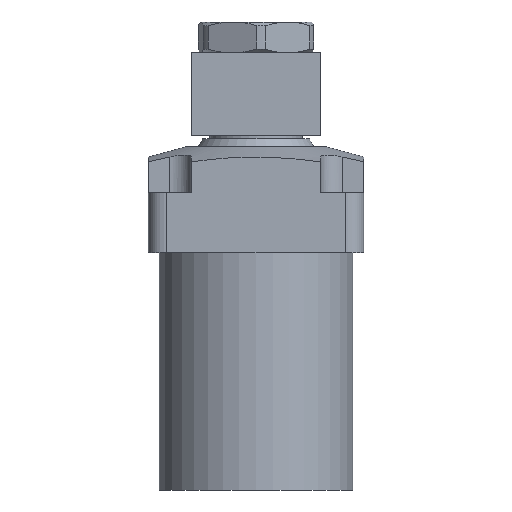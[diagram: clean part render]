
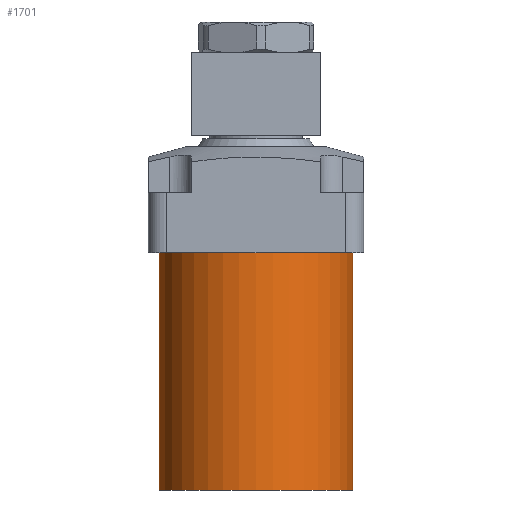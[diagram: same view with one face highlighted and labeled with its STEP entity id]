
A CAD part, left-side view. The second image highlights one B-rep face of the part: STEP entity #1701.
In plain terms, the highlighted cylindrical face has radius 31.5 mm (diameter 63 mm), a full revolution.
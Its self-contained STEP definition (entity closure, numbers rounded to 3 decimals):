
#1210=FACE_BOUND('',#2024,.T.);
#1211=FACE_BOUND('',#2025,.T.);
#1316=CYLINDRICAL_SURFACE('',#3887,31.5);
#1701=ADVANCED_FACE('',(#1210,#1211),#1316,.T.);
#2024=EDGE_LOOP('',(#2506));
#2025=EDGE_LOOP('',(#2507));
#2506=ORIENTED_EDGE('',*,*,#3258,.F.);
#2507=ORIENTED_EDGE('',*,*,#3285,.F.);
#2985=VERTEX_POINT('',#5103);
#3012=VERTEX_POINT('',#5307);
#3258=EDGE_CURVE('',#2985,#2985,#3516,.T.);
#3285=EDGE_CURVE('',#3012,#3012,#3522,.T.);
#3516=CIRCLE('',#3875,31.5);
#3522=CIRCLE('',#3886,31.5);
#3875=AXIS2_PLACEMENT_3D('',#5102,#4317,#4318);
#3886=AXIS2_PLACEMENT_3D('',#5306,#4339,#4340);
#3887=AXIS2_PLACEMENT_3D('',#5308,#4341,#4342);
#4317=DIRECTION('',(0.,0.,-1.));
#4318=DIRECTION('',(0.,-1.,0.));
#4339=DIRECTION('',(0.,0.,1.));
#4340=DIRECTION('',(0.,-1.,0.));
#4341=DIRECTION('',(0.,0.,-1.));
#4342=DIRECTION('',(0.,1.,0.));
#5102=CARTESIAN_POINT('',(0.,57.,-57.));
#5103=CARTESIAN_POINT('',(0.,25.5,-57.));
#5306=CARTESIAN_POINT('',(0.,57.,20.));
#5307=CARTESIAN_POINT('',(0.,25.5,20.));
#5308=CARTESIAN_POINT('',(0.,57.,20.));
